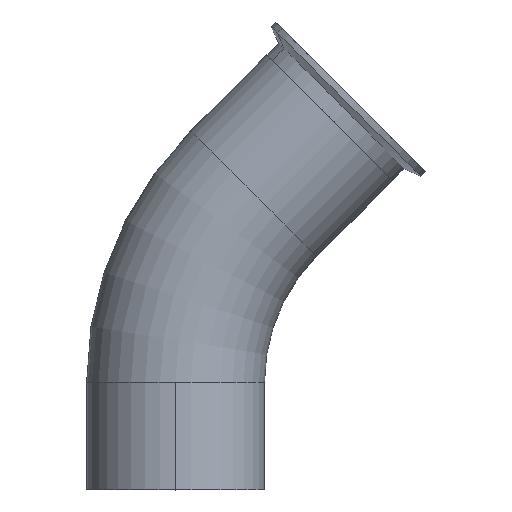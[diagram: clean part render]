
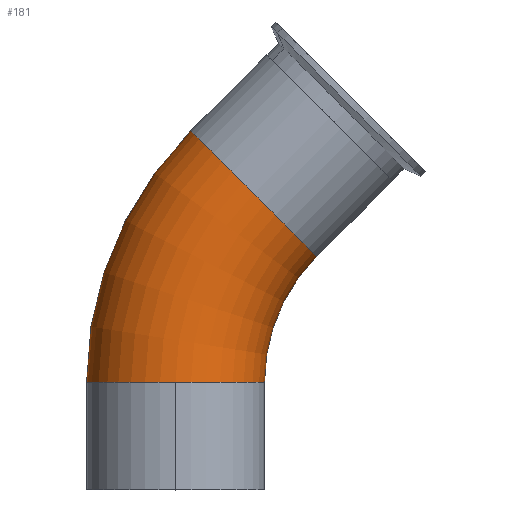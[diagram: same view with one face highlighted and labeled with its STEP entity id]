
A CAD part, top view. The second image highlights one B-rep face of the part: STEP entity #181.
In plain terms, the highlighted toroidal (fillet/blend) face has major radius 114.3 mm and minor radius 38.1 mm.
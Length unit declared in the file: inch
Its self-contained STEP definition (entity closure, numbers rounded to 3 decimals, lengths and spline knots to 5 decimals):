
#5 = AXIS2_PLACEMENT_3D ( 'NONE', #709, #274, #789 ) ;
#23 = EDGE_CURVE ( 'NONE', #260, #244, #868, .T. ) ;
#30 = DIRECTION ( 'NONE',  ( 0., 0., 1. ) ) ;
#64 = EDGE_CURVE ( 'NONE', #673, #244, #623, .T. ) ;
#77 = EDGE_CURVE ( 'NONE', #506, #693, #602, .T. ) ;
#115 = EDGE_CURVE ( 'NONE', #693, #673, #733, .T. ) ;
#128 = CARTESIAN_POINT ( 'NONE',  ( 1.73213, 7.74804, 7.7481 ) ) ;
#154 = ORIENTED_EDGE ( 'NONE', *, *, #23, .F. ) ;
#181 = ADVANCED_FACE ( 'NONE', ( #932 ), #345, .T. ) ;
#183 = CARTESIAN_POINT ( 'NONE',  ( 3.85345, 5.62672, 7.7481 ) ) ;
#187 = DIRECTION ( 'NONE',  ( 1., 0., 0. ) ) ;
#242 = DIRECTION ( 'NONE',  ( 0.707, 0.707, 0. ) ) ;
#244 = VERTEX_POINT ( 'NONE', #900 ) ;
#249 = CARTESIAN_POINT ( 'NONE',  ( 1.47477, 3.5054, 7.7481 ) ) ;
#260 = VERTEX_POINT ( 'NONE', #183 ) ;
#274 = DIRECTION ( 'NONE',  ( 0., 0., 1. ) ) ;
#296 = EDGE_CURVE ( 'NONE', #506, #260, #782, .T. ) ;
#307 = DIRECTION ( 'NONE',  ( -1., 0., 0. ) ) ;
#342 = DIRECTION ( 'NONE',  ( 0., 1., 0. ) ) ;
#345 = TOROIDAL_SURFACE ( 'NONE', #741, 4.5, 1.5 ) ;
#386 = CARTESIAN_POINT ( 'NONE',  ( 5.97477, 3.5054, 7.7481 ) ) ;
#413 = CARTESIAN_POINT ( 'NONE',  ( 1.47477, 3.5054, 9.2481 ) ) ;
#455 = ORIENTED_EDGE ( 'NONE', *, *, #296, .F. ) ;
#465 = DIRECTION ( 'NONE',  ( 1., 0., 0. ) ) ;
#469 = ORIENTED_EDGE ( 'NONE', *, *, #115, .T. ) ;
#506 = VERTEX_POINT ( 'NONE', #128 ) ;
#602 = CIRCLE ( 'NONE', #926, 6. ) ;
#623 = CIRCLE ( 'NONE', #762, 1.5 ) ;
#639 = ORIENTED_EDGE ( 'NONE', *, *, #77, .T. ) ;
#672 = CARTESIAN_POINT ( 'NONE',  ( 2.79279, 6.68738, 7.7481 ) ) ;
#673 = VERTEX_POINT ( 'NONE', #413 ) ;
#693 = VERTEX_POINT ( 'NONE', #854 ) ;
#709 = CARTESIAN_POINT ( 'NONE',  ( 5.97477, 3.5054, 7.7481 ) ) ;
#733 = CIRCLE ( 'NONE', #840, 1.5 ) ;
#741 = AXIS2_PLACEMENT_3D ( 'NONE', #835, #30, #187 ) ;
#748 = DIRECTION ( 'NONE',  ( -0.707, 0.707, 0. ) ) ;
#750 = EDGE_LOOP ( 'NONE', ( #455, #639, #469, #859, #154 ) ) ;
#755 = DIRECTION ( 'NONE',  ( 0., 1., 0. ) ) ;
#762 = AXIS2_PLACEMENT_3D ( 'NONE', #249, #755, #307 ) ;
#764 = AXIS2_PLACEMENT_3D ( 'NONE', #672, #242, #748 ) ;
#782 = CIRCLE ( 'NONE', #764, 1.5 ) ;
#789 = DIRECTION ( 'NONE',  ( 1., 0., 0. ) ) ;
#797 = CARTESIAN_POINT ( 'NONE',  ( 1.47477, 3.5054, 7.7481 ) ) ;
#835 = CARTESIAN_POINT ( 'NONE',  ( 5.97477, 3.5054, 7.7481 ) ) ;
#840 = AXIS2_PLACEMENT_3D ( 'NONE', #797, #342, #864 ) ;
#854 = CARTESIAN_POINT ( 'NONE',  ( -0.02523, 3.5054, 7.7481 ) ) ;
#859 = ORIENTED_EDGE ( 'NONE', *, *, #64, .T. ) ;
#864 = DIRECTION ( 'NONE',  ( -1., 0., 0. ) ) ;
#868 = CIRCLE ( 'NONE', #5, 3. ) ;
#898 = DIRECTION ( 'NONE',  ( 0., 0., 1. ) ) ;
#900 = CARTESIAN_POINT ( 'NONE',  ( 2.97477, 3.5054, 7.7481 ) ) ;
#926 = AXIS2_PLACEMENT_3D ( 'NONE', #386, #898, #465 ) ;
#932 = FACE_OUTER_BOUND ( 'NONE', #750, .T. ) ;
